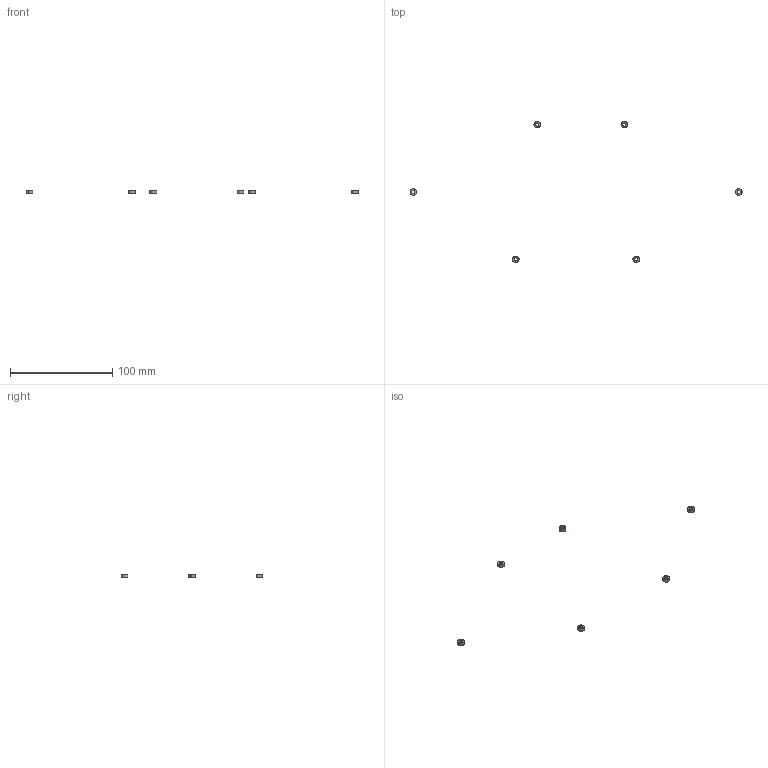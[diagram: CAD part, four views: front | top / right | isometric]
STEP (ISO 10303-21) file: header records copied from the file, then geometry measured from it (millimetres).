
FILE_DESCRIPTION(('HOOPS Exchange Step'),'2;1');
FILE_NAME('/Users/carl/Library/Containers/com.shapr3d.shapr/Data/tmp/export/temp_export','2026-10-19T18:25:14+02:00',('carl'),('Shapr3D Limited'),'HOOPS Exchange 2026.3','Shapr3D','Authorized');
FILE_SCHEMA( ('AP242_MANAGED_MODEL_BASED_3D_ENGINEERING_MIM_LF {1 0 10303 442 1 1 4}') );
Length unit declared in the file: millimetre
Products named in the file (1): Standoffs
Bounding box: 324 x 138 x 3 mm (x, y, z)
Volume: 452.5 mm3; surface area: 850.2 mm2
Topology: 6 solids, 6 shells, 27 faces, 67 edges, 52 vertices
Faces by surface type: cylinder 15, plane 12
Full cylindrical faces by diameter (mm): 3.2 x6, 6.5 x5
Entity records: 924 total; most frequent: DIRECTION 177, CARTESIAN_POINT 148, ORIENTED_EDGE 134, AXIS2_PLACEMENT_3D 81, EDGE_CURVE 67, VERTEX_POINT 52, CIRCLE 52, EDGE_LOOP 39
